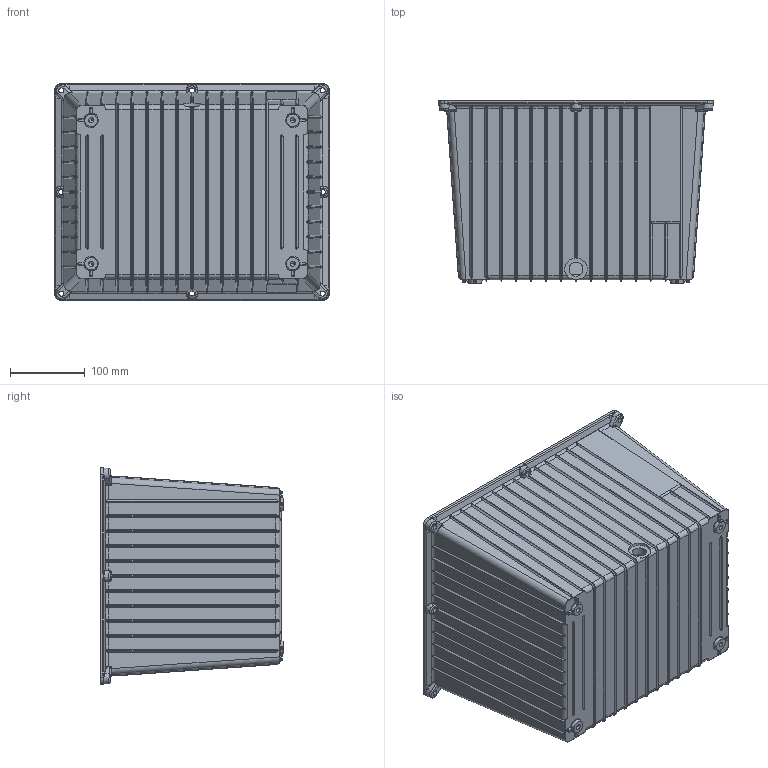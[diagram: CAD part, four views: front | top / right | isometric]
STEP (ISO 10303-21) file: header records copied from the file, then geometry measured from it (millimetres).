
FILE_DESCRIPTION((''),'2;1');
FILE_NAME('BAL0004_ASM','2017-02-16T',('Eata'),(''),'PRO/ENGINEER BY PARAMETRIC TECHNOLOGY CORPORATION, 2014000','PRO/ENGINEER BY PARAMETRIC TECHNOLOGY CORPORATION, 2014000','');
FILE_SCHEMA(('CONFIG_CONTROL_DESIGN'));
Products named in the file (2): BALR0106_AF0; BAL0004_ASM
Assembly tree (1 placements, depth 2):
  BAL0004_ASM
    BALR0106_AF0
Bounding box: 367.82 x 245 x 289.82 mm (x, y, z)
Volume: 1251958.8 mm3; surface area: 747848.7 mm2
Topology: 1 solids, 9 shells, 2309 faces, 5838 edges, 3638 vertices
Faces by surface type: plane 1248, cylinder 393, bspline 296, cone 164, torus 108, extrusion 76, sphere 24
Entity records: 87056 total; most frequent: CARTESIAN_POINT 34609, ORIENTED_EDGE 11660, DIRECTION 9512, EDGE_CURVE 5830, VECTOR 3760, LINE 3684, VERTEX_POINT 3638, AXIS2_PLACEMENT_3D 2876
